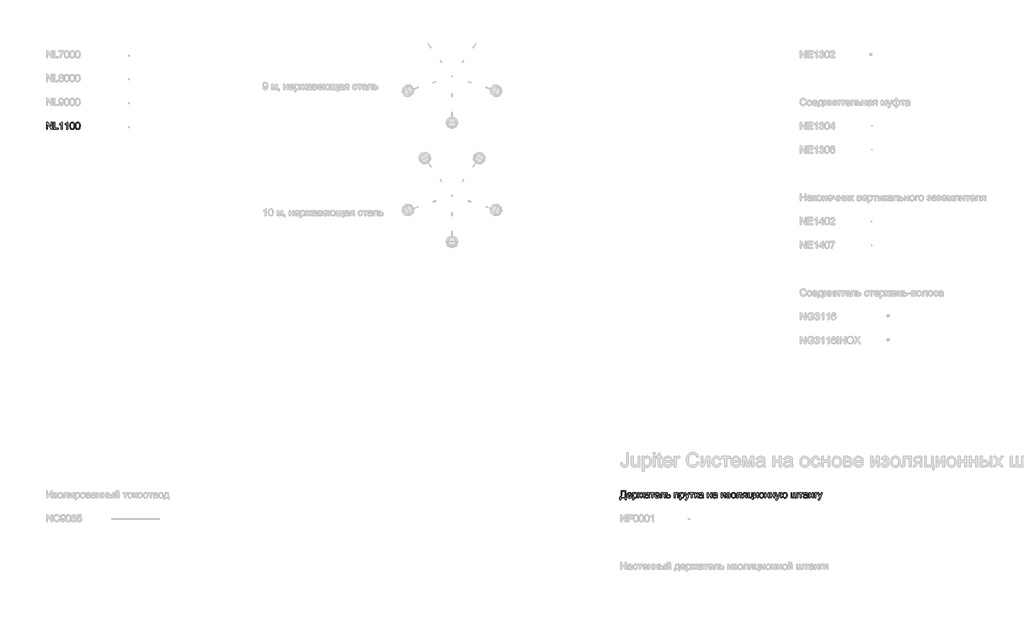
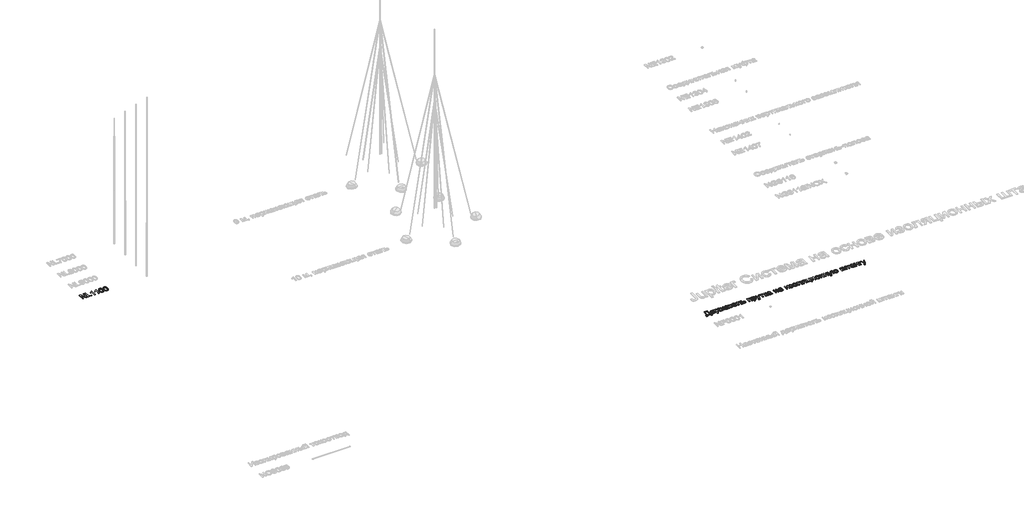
# One storey, part 36 of 124: 2 proxies.
"""IFC4 building model written with IfcOpenShell, lengths in millimetres."""

from ifc_helpers import new_model, si_unit, origin, origin_with_axes, place, context, project, spatial, polyline, outline, extrude, element, save

model = new_model("IFC4")

# Units and contexts
model_context = context("Model", 3, world=origin())
ifc_project = project(units=[si_unit("LENGTHUNIT", "METRE", prefix="MILLI")], contexts=[model_context])

# Site, building, storey
site = spatial("IfcSite", under=ifc_project)
building = spatial("IfcBuilding", under=site)
storey = spatial("IfcBuildingStorey", under=building, Name="Этаж 01", Elevation=0.0)

# Proxies
placement = place(None, origin())
element("IfcBuildingElementProxy", 1, Name="300", ObjectType="300", at=placement, inside=storey, context=model_context, shape_type="SweptSolid", body=[
    extrude(outline(polyline([(1299.8220677, -77074.498362), (1299.8220677, -76773.1294316), (1340.1419344, -76773.1294316), (1497.5954283, -77011.8848464), (1497.5954283, -76773.1294316), (1535.2665446, -76773.1294316), (1535.2665446, -77074.498362), (1494.9466779, -77074.498362), (1337.493184, -76835.6693707), (1337.493184, -77074.498362), (1299.8220677, -77074.498362)])), origin_with_axes(), (0.0, 0.0, 1.0), 20.0),
    extrude(outline(polyline([(1601.1909981, -77074.498362), (1601.1909981, -76773.1294316), (1638.8621144, -76773.1294316), (1638.8621144, -77036.8272457), (1789.5465797, -77036.8272457), (1789.5465797, -77074.498362), (1601.1909981, -77074.498362)])), origin_with_axes(), (0.0, 0.0, 1.0), 20.0),
    extrude(outline(polyline([(1959.0666031, -77074.498362), (1921.3954867, -77074.498362), (1921.3954867, -76839.6424963), (1885.7109332, -76865.0631421), (1846.0532541, -76884.0826413), (1846.0532541, -76848.4716642), (1875.6401636, -76832.3768269), (1901.2723416, -76813.228569), (1921.4782602, -76792.8663006), (1934.7863914, -76773.1294316), (1959.0666031, -76773.1294316), (1959.0666031, -77074.498362)])), origin_with_axes(), (0.0, 0.0, 1.0), 20.0),
    extrude(outline(polyline([(2189.8021904, -77074.498362), (2152.1310741, -77074.498362), (2152.1310741, -76839.6424963), (2116.4465206, -76865.0631421), (2076.7888415, -76884.0826413), (2076.7888415, -76848.4716642), (2106.375751, -76832.3768269), (2132.007929, -76813.228569), (2152.2138476, -76792.8663006), (2165.5219787, -76773.1294316), (2189.8021904, -76773.1294316), (2189.8021904, -77074.498362)])), origin_with_axes(), (0.0, 0.0, 1.0), 20.0),
    extrude(outline(polyline([(2279.2710917, -76926.2419179), (2282.0394037, -76878.0033913), (2290.3443397, -76839.5321317), (2304.1031263, -76810.2395278), (2323.2329901, -76789.5369685), (2347.8718867, -76777.2313158), (2378.157772, -76773.1294316), (2401.3711259, -76775.5574527), (2422.1564586, -76782.8415162), (2439.5388829, -76794.6965135), (2452.5435114, -76810.8373361), (2462.3659607, -76831.1260281), (2470.2018471, -76855.4246339), (2475.333801, -76886.2807362), (2477.0444523, -76926.2419179), (2474.3037314, -76974.2045331), (2466.0815688, -77012.5838222), (2452.4055556, -77041.9040172), (2433.303283, -77062.68935), (2408.6092041, -77075.0777761), (2378.157772, -77079.2072515), (2357.4092274, -77077.4138268), (2339.0151277, -77072.0335526), (2322.9754727, -77063.066429), (2309.2902625, -77050.5124559), (2296.1568752, -77027.8187353), (2286.7758844, -76999.5424055), (2281.1472898, -76965.6834664), (2279.2710917, -76926.2419179)]), holes=[polyline([(2316.942208, -76926.1683415), (2321.3567919, -76985.4249339), (2326.8750218, -77005.6929326), (2334.6005437, -77019.7207329), (2354.3190187, -77036.0822847), (2378.157772, -77041.5361352), (2401.9965252, -77036.0638906), (2421.7150002, -77019.6471565), (2429.4405221, -77005.5963636), (2434.958752, -76985.3329634), (2439.373336, -76926.1683415), (2435.1059048, -76868.2453214), (2429.7716159, -76848.0440013), (2422.3036114, -76833.682808), (2402.6219246, -76816.5211129), (2377.7163136, -76810.8005479), (2354.1350777, -76815.8405312), (2335.1891549, -76830.9604812), (2327.2061156, -76846.595466), (2321.5039447, -76867.6751043), (2316.942208, -76926.1683415)])]), origin_with_axes(), (0.0, 0.0, 1.0), 20.0),
    extrude(outline(polyline([(2510.006679, -76926.2419179), (2512.774991, -76878.0033913), (2521.0799271, -76839.5321317), (2534.8387137, -76810.2395278), (2553.9685775, -76789.5369685), (2578.6074741, -76777.2313158), (2608.8933593, -76773.1294316), (2632.1067132, -76775.5574527), (2652.892046, -76782.8415162), (2670.2744702, -76794.6965135), (2683.2790988, -76810.8373361), (2693.101548, -76831.1260281), (2700.9374345, -76855.4246339), (2706.0693884, -76886.2807362), (2707.7800396, -76926.2419179), (2705.0393188, -76974.2045331), (2696.8171562, -77012.5838222), (2683.141143, -77041.9040172), (2664.0388704, -77062.68935), (2639.3447915, -77075.0777761), (2608.8933593, -77079.2072515), (2588.1448148, -77077.4138268), (2569.750715, -77072.0335526), (2553.7110601, -77063.066429), (2540.0258498, -77050.5124559), (2526.8924626, -77027.8187353), (2517.5114717, -76999.5424055), (2511.8828772, -76965.6834664), (2510.006679, -76926.2419179)]), holes=[polyline([(2547.6777953, -76926.1683415), (2552.0923793, -76985.4249339), (2557.6106092, -77005.6929326), (2565.3361311, -77019.7207329), (2585.054606, -77036.0822847), (2608.8933593, -77041.5361352), (2632.7321126, -77036.0638906), (2652.4505876, -77019.6471565), (2660.1761095, -77005.5963636), (2665.6943394, -76985.3329634), (2670.1089233, -76926.1683415), (2665.8414922, -76868.2453214), (2660.5072033, -76848.0440013), (2653.0391988, -76833.682808), (2633.357512, -76816.5211129), (2608.4519009, -76810.8005479), (2584.870665, -76815.8405312), (2565.9247423, -76830.9604812), (2557.941703, -76846.595466), (2552.2395321, -76867.6751043), (2547.6777953, -76926.1683415)])]), origin_with_axes(), (0.0, 0.0, 1.0), 20.0),
])
element("IfcBuildingElementProxy", 2, Name="300", ObjectType="300", at=placement, inside=storey, context=model_context, shape_type="SweptSolid", body=[
    extrude(outline(polyline([(25428.0754049, -92247.5042234), (25607.0132074, -92247.5042234), (25607.0132074, -92511.2020376), (25635.2665446, -92511.2020376), (25635.2665446, -92619.506497), (25597.5954283, -92619.506497), (25597.5954283, -92548.8731539), (25404.5309572, -92548.8731539), (25404.5309572, -92619.506497), (25366.8598409, -92619.506497), (25366.8598409, -92511.2020376), (25390.4042886, -92511.2020376), (25406.885402, -92477.0303988), (25418.6576258, -92428.9620176), (25425.7209602, -92366.996894), (25428.0754049, -92291.1350281), (25428.0754049, -92247.5042234)]), holes=[polyline([(25569.3420911, -92285.1753397), (25465.7465212, -92285.1753397), (25465.7465212, -92300.3320779), (25458.0945757, -92403.5597658), (25446.7638103, -92463.2118313), (25428.0754049, -92511.2020376), (25569.3420911, -92511.2020376), (25569.3420911, -92285.1753397)])]), origin_with_axes(), (0.0, 0.0, 1.0), 20.0),
    extrude(outline(polyline([(25832.5984468, -92482.9487003), (25869.5337991, -92487.6575899), (25856.225668, -92515.4878628), (25834.9896798, -92536.2915897), (25806.3040812, -92549.25943), (25770.6471188, -92553.5820434), (25747.2728166, -92551.7173416), (25726.4460971, -92546.123236), (25708.1669605, -92536.7997267), (25692.4354067, -92523.7468136), (25679.7848645, -92507.3277803), (25670.748763, -92487.9059102), (25665.3271021, -92465.4812034), (25663.5198818, -92440.0536597), (25665.3454962, -92413.7638926), (25670.8223394, -92390.5919255), (25679.9504114, -92370.5377582), (25692.7297123, -92353.6013908), (25708.4198793, -92340.1461069), (25726.2805502, -92330.5351897), (25746.3117249, -92324.7686395), (25768.5134033, -92322.846456), (25790.000011, -92324.7640409), (25809.4310782, -92330.5167956), (25826.8066047, -92340.1047201), (25842.1265905, -92353.5278144), (25854.6322791, -92370.4273936), (25863.5649138, -92390.4447727), (25868.9244946, -92413.5799516), (25870.7110215, -92439.8329305), (25870.4902923, -92449.9864736), (25701.1909981, -92449.9864736), (25707.7117065, -92478.1846285), (25722.8592477, -92498.9147789), (25744.7206352, -92511.6618901), (25771.3828828, -92515.9109271), (25791.4324516, -92513.9427584), (25808.3182351, -92508.0382524), (25822.0402336, -92497.8295271), (25832.5984468, -92482.9487003)]), holes=[polyline([(25701.1909981, -92412.3153573), (25833.0399052, -92412.3153573), (25827.9447396, -92392.4129413), (25817.9567434, -92378.1759081), (25795.9941883, -92364.9321563), (25768.3662505, -92360.5175724), (25742.9731957, -92364.0400425), (25721.9763309, -92374.6074528), (25707.3806127, -92391.0793691), (25701.1909981, -92412.3153573)])]), origin_with_axes(), (0.0, 0.0, 1.0), 20.0),
    extrude(outline(polyline([(25908.3821378, -92633.6331656), (25908.3821378, -92327.5553456), (25946.0532541, -92327.5553456), (25946.0532541, -92364.4906979), (25958.3405128, -92346.2713421), (25972.0992994, -92333.2575165), (25988.1389544, -92325.4492212), (26007.2688181, -92322.846456), (26032.7446463, -92326.4884878), (26055.0199011, -92337.4145831), (26073.1564835, -92354.9625542), (26086.2162943, -92378.4702137), (26094.1073631, -92406.2269103), (26096.7377194, -92436.5219926), (26093.7670722, -92468.7392583), (26084.8551309, -92497.5536156), (26070.2870039, -92521.5027334), (26050.3477998, -92539.124281), (26027.1252488, -92549.9676028), (26002.7070814, -92553.5820434), (25985.3890365, -92551.1632193), (25969.9287956, -92543.906747), (25956.6942408, -92532.9530605), (25946.0532541, -92519.4425943), (25946.0532541, -92633.6331656), (25908.3821378, -92633.6331656)]), holes=[polyline([(25946.0532541, -92439.9800833), (25950.1275472, -92473.7516505), (25962.3504265, -92497.3696746), (25980.3858413, -92511.275614), (26001.897741, -92515.9109271), (26023.7591286, -92511.1100671), (26042.2543959, -92496.707487), (26054.8635513, -92472.2249402), (26059.0666031, -92437.1841801), (26054.9647188, -92403.596554), (26042.6590661, -92379.6474361), (26024.6512424, -92365.3000383), (26003.4428454, -92360.5175724), (25982.1516749, -92365.6035409), (25963.4540725, -92380.8614467), (25950.4034587, -92405.813043), (25946.0532541, -92439.9800833)])]), origin_with_axes(), (0.0, 0.0, 1.0), 20.0),
    extrude(outline(polyline([(26275.6755218, -92327.5553456), (26275.6755218, -92421.7331364), (26288.9652589, -92419.7925588), (26297.6380769, -92413.9708263), (26318.4234097, -92373.6877478), (26331.39125, -92348.5798016), (26343.2186561, -92335.0601383), (26357.584448, -92329.4315438), (26378.4617513, -92327.5553456), (26393.3977603, -92327.5553456), (26393.3977603, -92365.4471911), (26383.023488, -92365.2264619), (26363.5993187, -92369.126011), (26350.1348376, -92393.5533755), (26334.4998528, -92420.3351848), (26312.1694157, -92433.9468186), (26324.5624404, -92439.2489178), (26336.7991153, -92448.6069161), (26360.8034155, -92479.4906096), (26402.8155393, -92548.8731539), (26359.6261931, -92548.8731539), (26318.2762569, -92480.4471028), (26306.9730826, -92462.4852644), (26297.1966185, -92452.0098246), (26287.3097899, -92446.9606442), (26275.6755218, -92445.277584), (26275.6755218, -92548.8731539), (26238.0044055, -92548.8731539), (26238.0044055, -92445.277584), (26226.4621079, -92446.923856), (26216.5568852, -92451.8626718), (26206.7068448, -92462.2645352), (26195.3300941, -92480.29995), (26153.9801578, -92548.8731539), (26110.864388, -92548.8731539), (26152.729359, -92479.4906096), (26176.9176002, -92448.6069161), (26189.2186544, -92439.2489178), (26201.6576644, -92433.9468186), (26187.2734784, -92426.7363315), (26177.9660639, -92418.9372332), (26157.6589778, -92380.3096237), (26147.7261639, -92367.5809067), (26131.4657797, -92365.0057327), (26120.282167, -92365.2264619), (26120.282167, -92327.5553456), (26125.9475498, -92327.5553456), (26158.9833529, -92329.9097904), (26176.1266539, -92339.9161806), (26195.3300941, -92373.6877478), (26215.8946976, -92413.7133089), (26224.5675156, -92419.7281795), (26238.0044055, -92421.7331364), (26238.0044055, -92327.5553456), (26275.6755218, -92327.5553456)])), origin_with_axes(), (0.0, 0.0, 1.0), 20.0),
    extrude(outline(polyline([(26562.9177836, -92520.6198167), (26544.919157, -92536.0524664), (26526.3871015, -92546.1508271), (26506.8985528, -92551.7242393), (26486.0304467, -92553.5820434), (26454.5489449, -92549.1122772), (26431.326394, -92535.7029785), (26417.0065873, -92515.34071), (26412.2333184, -92490.0120347), (26414.0359402, -92474.395444), (26419.4438055, -92460.213593), (26427.7855298, -92448.0734872), (26438.3897283, -92438.5821317), (26464.7668673, -92426.2212967), (26497.3612121, -92420.555914), (26535.878457, -92414.5962256), (26562.6970544, -92407.6064677), (26562.9177836, -92399.2187582), (26560.3242156, -92382.4065511), (26552.5435114, -92371.4068794), (26535.142693, -92363.2398991), (26510.8992695, -92360.5175724), (26488.4584678, -92362.3293912), (26472.7866948, -92367.7648477), (26462.0997229, -92377.8172232), (26454.6133243, -92393.4797991), (26416.942208, -92388.7709096), (26423.4813104, -92368.1695179), (26433.2393803, -92351.9827101), (26447.1269257, -92339.6034809), (26466.0544543, -92330.4248251), (26489.2034289, -92324.7410483), (26515.7553119, -92322.846456), (26541.221943, -92324.5203191), (26561.4094675, -92329.5419084), (26576.630585, -92337.0926863), (26587.1979953, -92346.3541155), (26594.2061473, -92357.8044426), (26598.74949, -92371.9219142), (26600.5889, -92404.884141), (26600.5889, -92451.7523072), (26602.5018863, -92517.1985141), (26610.006679, -92548.8731539), (26572.3355627, -92548.8731539), (26562.9177836, -92520.6198167)]), holes=[polyline([(26562.9177836, -92445.277584), (26502.143678, -92456.8290787), (26469.7332743, -92462.9359198), (26455.0547827, -92472.8687337), (26449.9044347, -92487.3632843), (26452.7095349, -92498.565291), (26461.1248356, -92507.7439468), (26474.9663956, -92513.869182), (26494.0502741, -92515.9109271), (26514.2837839, -92513.6576499), (26532.1628488, -92506.8978182), (26546.6573995, -92496.9374132), (26556.7373661, -92485.0824159), (26561.2071324, -92472.8687337), (26562.6970544, -92455.9461619), (26562.9177836, -92445.277584)])]), origin_with_axes(), (0.0, 0.0, 1.0), 20.0),
    extrude(outline(polyline([(26633.5511267, -92327.5553456), (26812.4889292, -92327.5553456), (26812.4889292, -92365.2264619), (26741.8555861, -92365.2264619), (26741.8555861, -92548.8731539), (26704.1844698, -92548.8731539), (26704.1844698, -92365.2264619), (26633.5511267, -92365.2264619), (26633.5511267, -92327.5553456)])), origin_with_axes(), (0.0, 0.0, 1.0), 20.0),
    extrude(outline(polyline([(27000.4030523, -92482.9487003), (27037.3384046, -92487.6575899), (27024.0302734, -92515.4878628), (27002.7942853, -92536.2915897), (26974.1086867, -92549.25943), (26938.4517243, -92553.5820434), (26915.0774221, -92551.7173416), (26894.2507026, -92546.123236), (26875.971566, -92536.7997267), (26860.2400121, -92523.7468136), (26847.58947, -92507.3277803), (26838.5533685, -92487.9059102), (26833.1317076, -92465.4812034), (26831.3244873, -92440.0536597), (26833.1501017, -92413.7638926), (26838.6269449, -92390.5919255), (26847.7550169, -92370.5377582), (26860.5343177, -92353.6013908), (26876.2244848, -92340.1461069), (26894.0851557, -92330.5351897), (26914.1163303, -92324.7686395), (26936.3180087, -92322.846456), (26957.8046165, -92324.7640409), (26977.2356837, -92330.5167956), (26994.6112101, -92340.1047201), (27009.931196, -92353.5278144), (27022.4368846, -92370.4273936), (27031.3695193, -92390.4447727), (27036.7291001, -92413.5799516), (27038.515627, -92439.8329305), (27038.2948978, -92449.9864736), (26868.9956036, -92449.9864736), (26875.516312, -92478.1846285), (26890.6638531, -92498.9147789), (26912.5252407, -92511.6618901), (26939.1874883, -92515.9109271), (26959.237057, -92513.9427584), (26976.1228406, -92508.0382524), (26989.844839, -92497.8295271), (27000.4030523, -92482.9487003)]), holes=[polyline([(26868.9956036, -92412.3153573), (27000.8445107, -92412.3153573), (26995.7493451, -92392.4129413), (26985.7613489, -92378.1759081), (26963.7987938, -92364.9321563), (26936.170856, -92360.5175724), (26910.7778012, -92364.0400425), (26889.7809364, -92374.6074528), (26875.1852182, -92391.0793691), (26868.9956036, -92412.3153573)])]), origin_with_axes(), (0.0, 0.0, 1.0), 20.0),
    extrude(outline(polyline([(27095.0223015, -92327.5553456), (27264.5423248, -92327.5553456), (27264.5423248, -92548.6524247), (27226.8712085, -92548.6524247), (27226.8712085, -92365.2264619), (27132.6934178, -92365.2264619), (27132.6934178, -92470.8085945), (27130.155032, -92519.5161707), (27125.4001572, -92530.5434335), (27116.2123044, -92540.0807742), (27102.2695768, -92546.675059), (27083.2500776, -92548.8731539), (27052.6422956, -92546.9601675), (27052.6422956, -92511.2020376), (27069.491291, -92511.2020376), (27086.5242274, -92508.884381), (27093.3300443, -92501.5267411), (27095.0223015, -92468.6748789), (27095.0223015, -92327.5553456)])), origin_with_axes(), (0.0, 0.0, 1.0), 20.0),
    extrude(outline(polyline([(27321.0489993, -92327.5553456), (27358.7201156, -92327.5553456), (27358.7201156, -92407.6064677), (27402.130191, -92407.6064677), (27439.7645191, -92412.3245543), (27454.9120603, -92418.2221626), (27467.6131862, -92426.4788141), (27477.6563647, -92436.8094004), (27484.8300636, -92448.9288128), (27490.5690227, -92478.5341164), (27485.6853892, -92505.4906696), (27471.0344887, -92528.234974), (27459.8025916, -92537.2641777), (27445.641434, -92543.7136089), (27408.5313378, -92548.8731539), (27321.0489993, -92548.8731539), (27321.0489993, -92327.5553456)]), holes=[polyline([(27358.7201156, -92511.2020376), (27393.8896343, -92511.2020376), (27421.1772813, -92509.2246719), (27439.3230608, -92503.2925747), (27449.504195, -92493.1666228), (27452.8979064, -92478.6076928), (27450.3871118, -92466.3020401), (27442.8547279, -92455.4311271), (27426.7139054, -92447.8159698), (27398.3777947, -92445.277584), (27358.7201156, -92445.277584), (27358.7201156, -92511.2020376)])]), origin_with_axes(), (0.0, 0.0, 1.0), 20.0),
    extrude(outline(polyline([(27655.3801565, -92327.5553456), (27824.9001799, -92327.5553456), (27824.9001799, -92548.8731539), (27787.2290636, -92548.8731539), (27787.2290636, -92365.2264619), (27693.0512728, -92365.2264619), (27693.0512728, -92548.8731539), (27655.3801565, -92548.8731539), (27655.3801565, -92327.5553456)])), origin_with_axes(), (0.0, 0.0, 1.0), 20.0),
    extrude(outline(polyline([(27881.4068544, -92633.6331656), (27881.4068544, -92327.5553456), (27919.0779707, -92327.5553456), (27919.0779707, -92364.4906979), (27931.3652293, -92346.2713421), (27945.1240159, -92333.2575165), (27961.1636709, -92325.4492212), (27980.2935347, -92322.846456), (28005.7693628, -92326.4884878), (28028.0446176, -92337.4145831), (28046.1812, -92354.9625542), (28059.2410108, -92378.4702137), (28067.1320796, -92406.2269103), (28069.7624359, -92436.5219926), (28066.7917888, -92468.7392583), (28057.8798474, -92497.5536156), (28043.3117204, -92521.5027334), (28023.3725163, -92539.124281), (28000.1499654, -92549.9676028), (27975.7317979, -92553.5820434), (27958.413753, -92551.1632193), (27942.9535122, -92543.906747), (27929.7189574, -92532.9530605), (27919.0779707, -92519.4425943), (27919.0779707, -92633.6331656), (27881.4068544, -92633.6331656)]), holes=[polyline([(27919.0779707, -92439.9800833), (27923.1522638, -92473.7516505), (27935.3751431, -92497.3696746), (27953.4105579, -92511.275614), (27974.9224575, -92515.9109271), (27996.7838451, -92511.1100671), (28015.2791124, -92496.707487), (28027.8882678, -92472.2249402), (28032.0913196, -92437.1841801), (28027.9894353, -92403.596554), (28015.6837826, -92379.6474361), (27997.6759589, -92365.3000383), (27976.4675619, -92360.5175724), (27955.1763914, -92365.6035409), (27936.478789, -92380.8614467), (27923.4281753, -92405.813043), (27919.0779707, -92439.9800833)])]), origin_with_axes(), (0.0, 0.0, 1.0), 20.0),
    extrude(outline(polyline([(28112.1424417, -92633.6331656), (28107.4335522, -92597.3600008), (28126.5634159, -92600.6709388), (28144.4424809, -92596.5138723), (28155.4053644, -92584.9255894), (28165.7060602, -92557.187287), (28168.6491162, -92548.0638135), (28088.597994, -92327.5553456), (28128.3292495, -92327.5553456), (28170.7828318, -92450.427932), (28185.571688, -92499.5769665), (28200.3605442, -92456.1668911), (28243.9913488, -92327.5553456), (28283.4282987, -92327.5553456), (28206.3938089, -92554.1706546), (28186.3810284, -92603.3196892), (28176.1355148, -92619.0098563), (28164.5288378, -92629.8807692), (28151.0459627, -92636.2267336), (28135.1718546, -92638.3420551), (28112.1424417, -92633.6331656)])), origin_with_axes(), (0.0, 0.0, 1.0), 20.0),
    extrude(outline(polyline([(28295.7891337, -92327.5553456), (28474.7269362, -92327.5553456), (28474.7269362, -92365.2264619), (28404.0935931, -92365.2264619), (28404.0935931, -92548.8731539), (28366.4224768, -92548.8731539), (28366.4224768, -92365.2264619), (28295.7891337, -92365.2264619), (28295.7891337, -92327.5553456)])), origin_with_axes(), (0.0, 0.0, 1.0), 20.0),
    extrude(outline(polyline([(28507.6891629, -92327.5553456), (28545.3602793, -92327.5553456), (28545.3602793, -92421.7331364), (28560.6825644, -92420.0408792), (28570.5969841, -92414.9641076), (28579.3709697, -92401.7203558), (28591.2719523, -92375.5271578), (28608.4520414, -92341.4980732), (28623.6087796, -92330.4248251), (28651.1631411, -92327.5553456), (28658.3736282, -92327.5553456), (28658.3736282, -92365.4471911), (28648.2200851, -92365.2264619), (28629.8259853, -92369.1995874), (28616.8765391, -92393.9948339), (28601.6830127, -92420.8134314), (28580.3826452, -92433.9468186), (28592.3204159, -92439.2489178), (28604.1478221, -92448.6069161), (28627.4715406, -92479.4906096), (28667.7914072, -92548.8731539), (28624.969943, -92548.8731539), (28585.4594167, -92480.9621376), (28565.593789, -92452.2305538), (28556.3047686, -92447.0158265), (28545.3602793, -92445.277584), (28545.3602793, -92548.8731539), (28507.6891629, -92548.8731539), (28507.6891629, -92327.5553456)])), origin_with_axes(), (0.0, 0.0, 1.0), 20.0),
    extrude(outline(polyline([(28832.6025411, -92520.6198167), (28814.6039145, -92536.0524664), (28796.071859, -92546.1508271), (28776.5833103, -92551.7242393), (28755.7152041, -92553.5820434), (28724.2337024, -92549.1122772), (28701.0111514, -92535.7029785), (28686.6913448, -92515.34071), (28681.9180759, -92490.0120347), (28683.7206976, -92474.395444), (28689.128563, -92460.213593), (28697.4702872, -92448.0734872), (28708.0744857, -92438.5821317), (28734.4516248, -92426.2212967), (28767.0459695, -92420.555914), (28805.5632144, -92414.5962256), (28832.3818119, -92407.6064677), (28832.6025411, -92399.2187582), (28830.008973, -92382.4065511), (28822.2282688, -92371.4068794), (28804.8274505, -92363.2398991), (28780.584027, -92360.5175724), (28758.1432253, -92362.3293912), (28742.4714523, -92367.7648477), (28731.7844803, -92377.8172232), (28724.2980817, -92393.4797991), (28686.6269654, -92388.7709096), (28693.1660679, -92368.1695179), (28702.9241378, -92351.9827101), (28716.8116831, -92339.6034809), (28735.7392118, -92330.4248251), (28758.8881863, -92324.7410483), (28785.4400693, -92322.846456), (28810.9067004, -92324.5203191), (28831.0942249, -92329.5419084), (28846.3153425, -92337.0926863), (28856.8827528, -92346.3541155), (28863.8909048, -92357.8044426), (28868.4342474, -92371.9219142), (28870.2736574, -92404.884141), (28870.2736574, -92451.7523072), (28872.1866438, -92517.1985141), (28879.6914365, -92548.8731539), (28842.0203202, -92548.8731539), (28832.6025411, -92520.6198167)]), holes=[polyline([(28832.6025411, -92445.277584), (28771.8284355, -92456.8290787), (28739.4180317, -92462.9359198), (28724.7395401, -92472.8687337), (28719.5891922, -92487.3632843), (28722.3942924, -92498.565291), (28730.809593, -92507.7439468), (28744.6511531, -92513.869182), (28763.7350316, -92515.9109271), (28783.9685413, -92513.6576499), (28801.8476063, -92506.8978182), (28816.3421569, -92496.9374132), (28826.4221236, -92485.0824159), (28830.8918898, -92472.8687337), (28832.3818119, -92455.9461619), (28832.6025411, -92445.277584)])]), origin_with_axes(), (0.0, 0.0, 1.0), 20.0),
    extrude(outline(polyline([(29039.7936808, -92327.5553456), (29077.4647971, -92327.5553456), (29077.4647971, -92412.3153573), (29176.3514774, -92412.3153573), (29176.3514774, -92327.5553456), (29214.0225937, -92327.5553456), (29214.0225937, -92548.8731539), (29176.3514774, -92548.8731539), (29176.3514774, -92449.9864736), (29077.4647971, -92449.9864736), (29077.4647971, -92548.8731539), (29039.7936808, -92548.8731539), (29039.7936808, -92327.5553456)])), origin_with_axes(), (0.0, 0.0, 1.0), 20.0),
    extrude(outline(polyline([(29411.7959543, -92520.6198167), (29393.7973277, -92536.0524664), (29375.2652722, -92546.1508271), (29355.7767235, -92551.7242393), (29334.9086173, -92553.5820434), (29303.4271156, -92549.1122772), (29280.2045646, -92535.7029785), (29265.884758, -92515.34071), (29261.1114891, -92490.0120347), (29262.9141108, -92474.395444), (29268.3219762, -92460.213593), (29276.6637004, -92448.0734872), (29287.2678989, -92438.5821317), (29313.645038, -92426.2212967), (29346.2393828, -92420.555914), (29384.7566276, -92414.5962256), (29411.5752251, -92407.6064677), (29411.7959543, -92399.2187582), (29409.2023862, -92382.4065511), (29401.421682, -92371.4068794), (29384.0208637, -92363.2398991), (29359.7774402, -92360.5175724), (29337.3366385, -92362.3293912), (29321.6648655, -92367.7648477), (29310.9778935, -92377.8172232), (29303.4914949, -92393.4797991), (29265.8203786, -92388.7709096), (29272.3594811, -92368.1695179), (29282.117551, -92351.9827101), (29296.0050963, -92339.6034809), (29314.932625, -92330.4248251), (29338.0815995, -92324.7410483), (29364.6334825, -92322.846456), (29390.1001136, -92324.5203191), (29410.2876381, -92329.5419084), (29425.5087557, -92337.0926863), (29436.076166, -92346.3541155), (29443.084318, -92357.8044426), (29447.6276606, -92371.9219142), (29449.4670706, -92404.884141), (29449.4670706, -92451.7523072), (29451.380057, -92517.1985141), (29458.8848497, -92548.8731539), (29421.2137334, -92548.8731539), (29411.7959543, -92520.6198167)]), holes=[polyline([(29411.7959543, -92445.277584), (29351.0218487, -92456.8290787), (29318.6114449, -92462.9359198), (29303.9329533, -92472.8687337), (29298.7826054, -92487.3632843), (29301.5877056, -92498.565291), (29310.0030062, -92507.7439468), (29323.8445663, -92513.869182), (29342.9284448, -92515.9109271), (29363.1619545, -92513.6576499), (29381.0410195, -92506.8978182), (29395.5355701, -92496.9374132), (29405.6155368, -92485.0824159), (29410.085303, -92472.8687337), (29411.5752251, -92455.9461619), (29411.7959543, -92445.277584)])]), origin_with_axes(), (0.0, 0.0, 1.0), 20.0),
    extrude(outline(polyline([(29618.987094, -92327.5553456), (29656.6582103, -92327.5553456), (29656.6582103, -92496.339605), (29749.2173203, -92327.5553456), (29797.9248964, -92327.5553456), (29797.9248964, -92548.8731539), (29760.2537801, -92548.8731539), (29760.2537801, -92381.1189641), (29668.2832813, -92548.8731539), (29618.987094, -92548.8731539), (29618.987094, -92327.5553456)])), origin_with_axes(), (0.0, 0.0, 1.0), 20.0),
    extrude(outline(polyline([(29906.2293558, -92449.9864736), (29906.2293558, -92412.3153573), (29935.954221, -92410.8438293), (29950.9638064, -92403.0079428), (29956.2613072, -92395.6594999), (29958.0271407, -92386.637194), (29955.6634989, -92375.9226309), (29948.5725735, -92367.6176949), (29937.7476457, -92362.292603), (29924.1819972, -92360.5175724), (29910.4691958, -92362.2834059), (29898.9820805, -92367.5809067), (29889.7206513, -92376.4100745), (29882.6849081, -92388.7709096), (29840.3049023, -92384.06202), (29851.5436972, -92357.2802108), (29868.6318159, -92338.150347), (29891.5692583, -92326.6724288), (29920.3560244, -92322.846456), (29951.8467232, -92327.5093603), (29975.6854765, -92341.4980732), (29990.6950619, -92361.9615092), (29995.698257, -92386.0485828), (29993.9186279, -92398.4094179), (29988.5797404, -92409.4458777), (29979.6815947, -92419.1579624), (29967.2241906, -92427.5456719), (29981.7647265, -92438.0119146), (29992.1298017, -92451.0165432), (29998.3378104, -92466.5963457), (30000.4071466, -92484.7881103), (29995.1556311, -92512.5172157), (29979.4010847, -92534.4889679), (29954.210365, -92548.8087745), (29920.65033, -92553.5820434), (29887.826059, -92549.1674595), (29862.7089158, -92535.9237077), (29845.2989004, -92513.8507879), (29835.5960127, -92482.9487003), (29877.9760186, -92478.2398108), (29884.321983, -92494.1691012), (29894.9721668, -92506.0516896), (29908.6941652, -92513.4461178), (29924.2555736, -92515.9109271), (29939.4123118, -92513.5472853), (29951.7731468, -92506.4563598), (29959.9953094, -92495.6866144), (29962.7360303, -92482.2865128), (29961.034576, -92471.6731172), (29955.9302134, -92462.4944614), (29941.4356627, -92451.89946), (29913.5869957, -92449.7657444), (29906.2293558, -92449.9864736)])), origin_with_axes(), (0.0, 0.0, 1.0), 20.0),
    extrude(outline(polyline([(30038.0782629, -92438.2142497), (30040.1154094, -92409.5516438), (30046.2268491, -92384.8529663), (30056.4125818, -92364.1182174), (30070.6726077, -92347.3473969), (30085.0292025, -92336.6282353), (30100.8757195, -92328.9716913), (30118.2121585, -92324.3777649), (30137.0385196, -92322.846456), (30157.8215531, -92324.7111579), (30176.6134252, -92330.3052635), (30193.4141361, -92339.6287728), (30208.2236857, -92352.6816859), (30220.3109085, -92369.0225442), (30228.944639, -92388.2098895), (30234.1248774, -92410.2437218), (30235.8516235, -92435.124041), (30232.7982029, -92473.1814334), (30223.6379412, -92502.1521405), (30208.6375529, -92523.8479812), (30188.0637523, -92540.0807742), (30163.6271908, -92550.2067261), (30137.0385196, -92553.5820434), (30115.9519835, -92551.7242393), (30096.9853674, -92546.1508271), (30080.1386712, -92536.8618067), (30065.4118951, -92523.8571782), (30053.453431, -92507.3576707), (30044.9116709, -92487.5840135), (30039.7866149, -92464.5362065), (30038.0782629, -92438.2142497)]), holes=[polyline([(30075.7493792, -92438.1406733), (30080.1087808, -92472.2341372), (30093.1869858, -92496.523546), (30112.8686725, -92511.0640818), (30137.0385196, -92515.9109271), (30161.0980021, -92511.0364907), (30180.7429006, -92496.4131814), (30193.8211055, -92471.8018759), (30198.1805072, -92436.963451), (30193.7935144, -92403.8632684), (30180.632536, -92379.9049535), (30160.9600463, -92365.3644176), (30137.0385196, -92360.5175724), (30112.8686725, -92365.3460235), (30093.1869858, -92379.8313771), (30080.1087808, -92404.0656035), (30075.7493792, -92438.1406733)])]), origin_with_axes(), (0.0, 0.0, 1.0), 20.0),
    extrude(outline(polyline([(30297.0671875, -92327.5553456), (30466.5872109, -92327.5553456), (30466.5872109, -92548.6524247), (30428.9160946, -92548.6524247), (30428.9160946, -92365.2264619), (30334.7383038, -92365.2264619), (30334.7383038, -92470.8085945), (30332.199918, -92519.5161707), (30327.4450432, -92530.5434335), (30318.2571904, -92540.0807742), (30304.3144628, -92546.675059), (30285.2949636, -92548.8731539), (30254.6871816, -92546.9601675), (30254.6871816, -92511.2020376), (30271.536177, -92511.2020376), (30288.5691134, -92508.884381), (30295.3749303, -92501.5267411), (30297.0671875, -92468.6748789), (30297.0671875, -92327.5553456)])), origin_with_axes(), (0.0, 0.0, 1.0), 20.0),
    extrude(outline(polyline([(30692.6139087, -92327.5553456), (30692.6139087, -92548.8731539), (30654.9427924, -92548.8731539), (30654.9427924, -92464.1131422), (30634.4149771, -92464.1131422), (30606.4559454, -92468.8956081), (30595.2907269, -92479.3250627), (30580.189171, -92501.0484945), (30550.1700002, -92548.8731539), (30506.6127719, -92548.8731539), (30544.431041, -92488.3933539), (30561.1328836, -92466.6883162), (30576.510351, -92457.0498079), (30550.7586114, -92449.1587391), (30532.6588172, -92434.1675478), (30521.9534511, -92414.2283437), (30518.3849958, -92391.4932363), (30523.2594322, -92365.7047085), (30537.8827415, -92345.2872578), (30561.7398889, -92331.9883236), (30594.3158396, -92327.5553456), (30692.6139087, -92327.5553456)]), holes=[polyline([(30654.9427924, -92365.2264619), (30605.278723, -92365.2264619), (30579.6281509, -92367.4061627), (30565.069221, -92373.9452652), (30558.3093893, -92383.4090295), (30556.0561121, -92394.3627159), (30559.3762471, -92408.7193108), (30569.3366521, -92418.6797158), (30587.7399489, -92424.5014484), (30616.3887593, -92426.4420259), (30654.9427924, -92426.4420259), (30654.9427924, -92365.2264619)])]), origin_with_axes(), (0.0, 0.0, 1.0), 20.0),
    extrude(outline(polyline([(30749.1205832, -92327.5553456), (30786.7916995, -92327.5553456), (30786.7916995, -92511.2020376), (30895.0961588, -92511.2020376), (30895.0961588, -92327.5553456), (30932.7672752, -92327.5553456), (30932.7672752, -92511.2020376), (30956.3117228, -92511.2020376), (30956.3117228, -92610.0887179), (30918.6406065, -92610.0887179), (30918.6406065, -92548.8731539), (30749.1205832, -92548.8731539), (30749.1205832, -92327.5553456)])), origin_with_axes(), (0.0, 0.0, 1.0), 20.0),
    extrude(outline(polyline([(30989.2739496, -92327.5553456), (31026.9450659, -92327.5553456), (31026.9450659, -92496.339605), (31119.5041759, -92327.5553456), (31168.2117521, -92327.5553456), (31168.2117521, -92548.8731539), (31130.5406358, -92548.8731539), (31130.5406358, -92381.1189641), (31038.570137, -92548.8731539), (30989.2739496, -92548.8731539), (30989.2739496, -92327.5553456)])), origin_with_axes(), (0.0, 0.0, 1.0), 20.0),
    extrude(outline(polyline([(31215.3006474, -92438.2142497), (31217.337794, -92409.5516438), (31223.4492336, -92384.8529663), (31233.6349664, -92364.1182174), (31247.8949922, -92347.3473969), (31262.2515871, -92336.6282353), (31278.098104, -92328.9716913), (31295.434543, -92324.3777649), (31314.2609042, -92322.846456), (31335.0439376, -92324.7111579), (31353.8358098, -92330.3052635), (31370.6365206, -92339.6287728), (31385.4460702, -92352.6816859), (31397.533293, -92369.0225442), (31406.1670236, -92388.2098895), (31411.3472619, -92410.2437218), (31413.0740081, -92435.124041), (31410.0205875, -92473.1814334), (31400.8603258, -92502.1521405), (31385.8599375, -92523.8479812), (31365.2861369, -92540.0807742), (31340.8495754, -92550.2067261), (31314.2609042, -92553.5820434), (31293.174368, -92551.7242393), (31274.2077519, -92546.1508271), (31257.3610558, -92536.8618067), (31242.6342797, -92523.8571782), (31230.6758156, -92507.3576707), (31222.1340555, -92487.5840135), (31217.0089995, -92464.5362065), (31215.3006474, -92438.2142497)]), holes=[polyline([(31252.9717638, -92438.1406733), (31257.3311654, -92472.2341372), (31270.4093703, -92496.523546), (31290.0910571, -92511.0640818), (31314.2609042, -92515.9109271), (31338.3203866, -92511.0364907), (31357.9652852, -92496.4131814), (31371.0434901, -92471.8018759), (31375.4028917, -92436.963451), (31371.015899, -92403.8632684), (31357.8549206, -92379.9049535), (31338.1824309, -92365.3644176), (31314.2609042, -92360.5175724), (31290.0910571, -92365.3460235), (31270.4093703, -92379.8313771), (31257.3311654, -92404.0656035), (31252.9717638, -92438.1406733)])]), origin_with_axes(), (0.0, 0.0, 1.0), 20.0),
    extrude(outline(polyline([(31455.4540139, -92327.5553456), (31493.1251302, -92327.5553456), (31493.1251302, -92412.3153573), (31592.0118105, -92412.3153573), (31592.0118105, -92327.5553456), (31629.6829268, -92327.5553456), (31629.6829268, -92548.8731539), (31592.0118105, -92548.8731539), (31592.0118105, -92449.9864736), (31493.1251302, -92449.9864736), (31493.1251302, -92548.8731539), (31455.4540139, -92548.8731539), (31455.4540139, -92327.5553456)])), origin_with_axes(), (0.0, 0.0, 1.0), 20.0),
    extrude(outline(polyline([(31686.1896013, -92327.5553456), (31723.8607176, -92327.5553456), (31723.8607176, -92412.3153573), (31822.7473979, -92412.3153573), (31822.7473979, -92327.5553456), (31860.4185142, -92327.5553456), (31860.4185142, -92548.8731539), (31822.7473979, -92548.8731539), (31822.7473979, -92449.9864736), (31723.8607176, -92449.9864736), (31723.8607176, -92548.8731539), (31686.1896013, -92548.8731539), (31686.1896013, -92327.5553456)])), origin_with_axes(), (0.0, 0.0, 1.0), 20.0),
    extrude(outline(polyline([(31916.9251886, -92633.6331656), (31912.2162991, -92597.3600008), (31931.3461629, -92600.6709388), (31949.2252278, -92596.5138723), (31960.1881113, -92584.9255894), (31970.4888071, -92557.187287), (31973.4318631, -92548.0638135), (31893.380741, -92327.5553456), (31933.1119964, -92327.5553456), (31975.5655787, -92450.427932), (31990.3544349, -92499.5769665), (32005.1432911, -92456.1668911), (32048.7740957, -92327.5553456), (32088.2110456, -92327.5553456), (32011.1765558, -92554.1706546), (31991.1637753, -92603.3196892), (31980.9182617, -92619.0098563), (31969.3115848, -92629.8807692), (31955.8287096, -92636.2267336), (31939.9546015, -92638.3420551), (31916.9251886, -92633.6331656)])), origin_with_axes(), (0.0, 0.0, 1.0), 20.0),
    extrude(outline(polyline([(32119.4074388, -92327.5553456), (32157.0785551, -92327.5553456), (32157.0785551, -92412.3153573), (32199.4585609, -92412.3153573), (32209.235025, -92373.908477), (32217.7583909, -92358.5677978), (32228.7051796, -92345.8022925), (32241.7672897, -92335.7591141), (32256.63662, -92328.5854152), (32291.7969417, -92322.846456), (32321.347063, -92326.2217734), (32343.9258205, -92336.3477253), (32361.3450329, -92352.3965773), (32375.4165192, -92373.540595), (32384.7147367, -92401.3524738), (32387.8141425, -92437.4049093), (32386.2115565, -92464.260295), (32381.4037987, -92487.6575899), (32373.390869, -92507.596794), (32362.1727674, -92524.0779074), (32348.2093464, -92536.9859669), (32331.9604586, -92546.2060094), (32313.4261038, -92551.7380349), (32292.6062821, -92553.5820434), (32273.2028061, -92551.852998), (32255.8272797, -92546.6658619), (32240.4797027, -92538.020635), (32227.1600752, -92525.9173174), (32216.199491, -92510.7973674), (32207.9290439, -92493.1022434), (32199.4585609, -92449.9864736), (32157.0785551, -92449.9864736), (32157.0785551, -92548.8731539), (32119.4074388, -92548.8731539), (32119.4074388, -92327.5553456)]), holes=[polyline([(32294.2249629, -92360.5175724), (32270.2114657, -92365.3920088), (32252.1760509, -92380.0153181), (32240.8912707, -92403.4310071), (32237.1296773, -92434.6825826), (32240.9188618, -92471.0937031), (32252.2864155, -92496.3028168), (32269.9999335, -92511.0088995), (32292.8270113, -92515.9109271), (32315.7184685, -92511.3767815), (32334.066583, -92497.7743448), (32346.1239154, -92474.0735472), (32350.1430262, -92439.2443193), (32346.6665413, -92404.8013675), (32336.2370868, -92380.1992591), (32318.7810861, -92365.437994), (32294.2249629, -92360.5175724)])]), origin_with_axes(), (0.0, 0.0, 1.0), 20.0),
    extrude(outline(polyline([(32552.6252763, -92327.5553456), (32590.2963926, -92327.5553456), (32590.2963926, -92511.2020376), (32675.0564043, -92511.2020376), (32675.0564043, -92327.5553456), (32712.7275206, -92327.5553456), (32712.7275206, -92511.2020376), (32797.4875323, -92511.2020376), (32797.4875323, -92327.5553456), (32835.1586486, -92327.5553456), (32835.1586486, -92548.8731539), (32552.6252763, -92548.8731539), (32552.6252763, -92327.5553456)])), origin_with_axes(), (0.0, 0.0, 1.0), 20.0),
    extrude(outline(polyline([(32868.1208754, -92327.5553456), (33047.0586778, -92327.5553456), (33047.0586778, -92365.2264619), (32976.4253348, -92365.2264619), (32976.4253348, -92548.8731539), (32938.7542185, -92548.8731539), (32938.7542185, -92365.2264619), (32868.1208754, -92365.2264619), (32868.1208754, -92327.5553456)])), origin_with_axes(), (0.0, 0.0, 1.0), 20.0),
    extrude(outline(polyline([(33221.2875907, -92520.6198167), (33203.2889641, -92536.0524664), (33184.7569086, -92546.1508271), (33165.2683599, -92551.7242393), (33144.4002538, -92553.5820434), (33112.918752, -92549.1122772), (33089.6962011, -92535.7029785), (33075.3763944, -92515.34071), (33070.6031255, -92490.0120347), (33072.4057473, -92474.395444), (33077.8136126, -92460.213593), (33086.1553369, -92448.0734872), (33096.7595354, -92438.5821317), (33123.1366744, -92426.2212967), (33155.7310192, -92420.555914), (33194.2482641, -92414.5962256), (33221.0668616, -92407.6064677), (33221.2875907, -92399.2187582), (33218.6940227, -92382.4065511), (33210.9133185, -92371.4068794), (33193.5125001, -92363.2398991), (33169.2690766, -92360.5175724), (33146.8282749, -92362.3293912), (33131.1565019, -92367.7648477), (33120.46953, -92377.8172232), (33112.9831314, -92393.4797991), (33075.3120151, -92388.7709096), (33081.8511175, -92368.1695179), (33091.6091874, -92351.9827101), (33105.4967328, -92339.6034809), (33124.4242614, -92330.4248251), (33147.573236, -92324.7410483), (33174.125119, -92322.846456), (33199.5917501, -92324.5203191), (33219.7792746, -92329.5419084), (33235.0003921, -92337.0926863), (33245.5678024, -92346.3541155), (33252.5759544, -92357.8044426), (33257.1192971, -92371.9219142), (33258.9587071, -92404.884141), (33258.9587071, -92451.7523072), (33260.8716934, -92517.1985141), (33268.3764861, -92548.8731539), (33230.7053698, -92548.8731539), (33221.2875907, -92520.6198167)]), holes=[polyline([(33221.2875907, -92445.277584), (33160.5134851, -92456.8290787), (33128.1030814, -92462.9359198), (33113.4245898, -92472.8687337), (33108.2742418, -92487.3632843), (33111.079342, -92498.565291), (33119.4946427, -92507.7439468), (33133.3362028, -92513.869182), (33152.4200813, -92515.9109271), (33172.653591, -92513.6576499), (33190.532656, -92506.8978182), (33205.0272066, -92496.9374132), (33215.1071732, -92485.0824159), (33219.5769395, -92472.8687337), (33221.0668616, -92455.9461619), (33221.2875907, -92445.277584)])]), origin_with_axes(), (0.0, 0.0, 1.0), 20.0),
    extrude(outline(polyline([(33310.756492, -92327.5553456), (33348.4276083, -92327.5553456), (33348.4276083, -92412.3153573), (33447.3142886, -92412.3153573), (33447.3142886, -92327.5553456), (33484.9854049, -92327.5553456), (33484.9854049, -92548.8731539), (33447.3142886, -92548.8731539), (33447.3142886, -92449.9864736), (33348.4276083, -92449.9864736), (33348.4276083, -92548.8731539), (33310.756492, -92548.8731539), (33310.756492, -92327.5553456)])), origin_with_axes(), (0.0, 0.0, 1.0), 20.0),
    extrude(outline(polyline([(33541.4920794, -92327.5553456), (33663.9232073, -92327.5553456), (33663.9232073, -92365.2264619), (33579.1631957, -92365.2264619), (33579.1631957, -92548.8731539), (33541.4920794, -92548.8731539), (33541.4920794, -92327.5553456)])), origin_with_axes(), (0.0, 0.0, 1.0), 20.0),
    extrude(outline(polyline([(33692.1765446, -92633.6331656), (33687.467655, -92597.3600008), (33706.5975188, -92600.6709388), (33724.4765838, -92596.5138723), (33735.4394672, -92584.9255894), (33745.7401631, -92557.187287), (33748.683219, -92548.0638135), (33668.6320969, -92327.5553456), (33708.3633524, -92327.5553456), (33750.8169346, -92450.427932), (33765.6057908, -92499.5769665), (33780.394647, -92456.1668911), (33824.0254516, -92327.5553456), (33863.4624015, -92327.5553456), (33786.4279117, -92554.1706546), (33766.4151312, -92603.3196892), (33756.1696176, -92619.0098563), (33744.5629407, -92629.8807692), (33731.0800656, -92636.2267336), (33715.2059575, -92638.3420551), (33692.1765446, -92633.6331656)])), origin_with_axes(), (0.0, 0.0, 1.0), 20.0),
])

save(model, "model.ifc")
